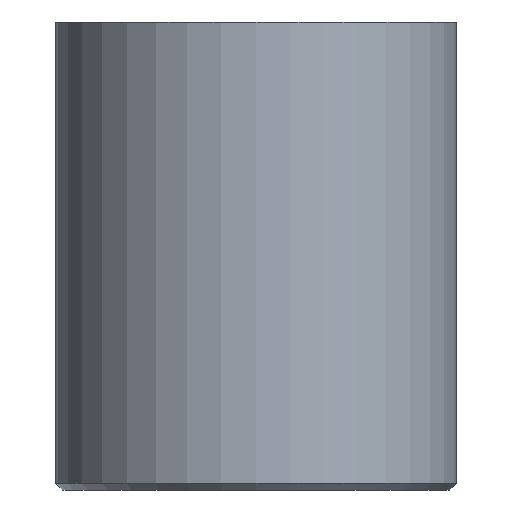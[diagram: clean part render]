
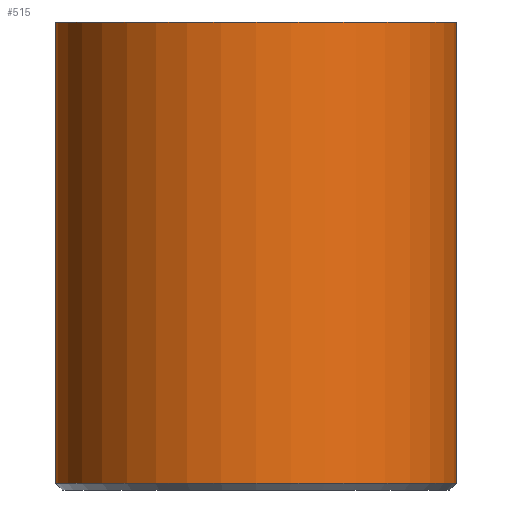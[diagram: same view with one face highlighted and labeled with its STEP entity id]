
A CAD part, front view. The second image highlights one B-rep face of the part: STEP entity #515.
In plain terms, the highlighted cylindrical face has radius 6 mm (diameter 12 mm), a partial arc.
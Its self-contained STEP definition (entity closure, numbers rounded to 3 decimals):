
#2 = DIRECTION ( 'NONE',  ( 0., 0., 1. ) ) ;
#15 = VECTOR ( 'NONE', #2, 1000. ) ;
#18 = VERTEX_POINT ( 'NONE', #700 ) ;
#28 = EDGE_LOOP ( 'NONE', ( #532, #687, #737, #517 ) ) ;
#40 = AXIS2_PLACEMENT_3D ( 'NONE', #624, #620, #618 ) ;
#42 = VERTEX_POINT ( 'NONE', #562 ) ;
#67 = CARTESIAN_POINT ( 'NONE',  ( -6., 0., 1. ) ) ;
#125 = CARTESIAN_POINT ( 'NONE',  ( -6., 0., -13.8 ) ) ;
#216 = EDGE_CURVE ( 'NONE', #719, #42, #435, .T. ) ;
#234 = EDGE_CURVE ( 'NONE', #353, #18, #496, .T. ) ;
#258 = VECTOR ( 'NONE', #713, 1000. ) ;
#268 = DIRECTION ( 'NONE',  ( 1., 0., 0. ) ) ;
#282 = CIRCLE ( 'NONE', #474, 6. ) ;
#289 = EDGE_CURVE ( 'NONE', #719, #353, #456, .T. ) ;
#353 = VERTEX_POINT ( 'NONE', #577 ) ;
#374 = CARTESIAN_POINT ( 'NONE',  ( 0., 0., 1. ) ) ;
#391 = EDGE_CURVE ( 'NONE', #42, #18, #282, .T. ) ;
#435 = LINE ( 'NONE', #67, #15 ) ;
#443 = DIRECTION ( 'NONE',  ( 0., 0., 1. ) ) ;
#456 = CIRCLE ( 'NONE', #40, 6. ) ;
#474 = AXIS2_PLACEMENT_3D ( 'NONE', #508, #506, #505 ) ;
#496 = LINE ( 'NONE', #721, #258 ) ;
#505 = DIRECTION ( 'NONE',  ( 1., 0., 0. ) ) ;
#506 = DIRECTION ( 'NONE',  ( 0., 0., 1. ) ) ;
#508 = CARTESIAN_POINT ( 'NONE',  ( 0., 0., 0. ) ) ;
#515 = ADVANCED_FACE ( 'NONE', ( #769 ), #627, .T. ) ;
#517 = ORIENTED_EDGE ( 'NONE', *, *, #391, .F. ) ;
#532 = ORIENTED_EDGE ( 'NONE', *, *, #216, .F. ) ;
#562 = CARTESIAN_POINT ( 'NONE',  ( -6., 0., 0. ) ) ;
#577 = CARTESIAN_POINT ( 'NONE',  ( 6., 0., -13.8 ) ) ;
#618 = DIRECTION ( 'NONE',  ( 1., 0., 0. ) ) ;
#620 = DIRECTION ( 'NONE',  ( 0., 0., 1. ) ) ;
#624 = CARTESIAN_POINT ( 'NONE',  ( 0., 0., -13.8 ) ) ;
#627 = CYLINDRICAL_SURFACE ( 'NONE', #667, 6. ) ;
#667 = AXIS2_PLACEMENT_3D ( 'NONE', #374, #443, #268 ) ;
#687 = ORIENTED_EDGE ( 'NONE', *, *, #289, .T. ) ;
#700 = CARTESIAN_POINT ( 'NONE',  ( 6., 0., 0. ) ) ;
#713 = DIRECTION ( 'NONE',  ( 0., 0., 1. ) ) ;
#719 = VERTEX_POINT ( 'NONE', #125 ) ;
#721 = CARTESIAN_POINT ( 'NONE',  ( 6., 0., 1. ) ) ;
#737 = ORIENTED_EDGE ( 'NONE', *, *, #234, .T. ) ;
#769 = FACE_OUTER_BOUND ( 'NONE', #28, .T. ) ;
